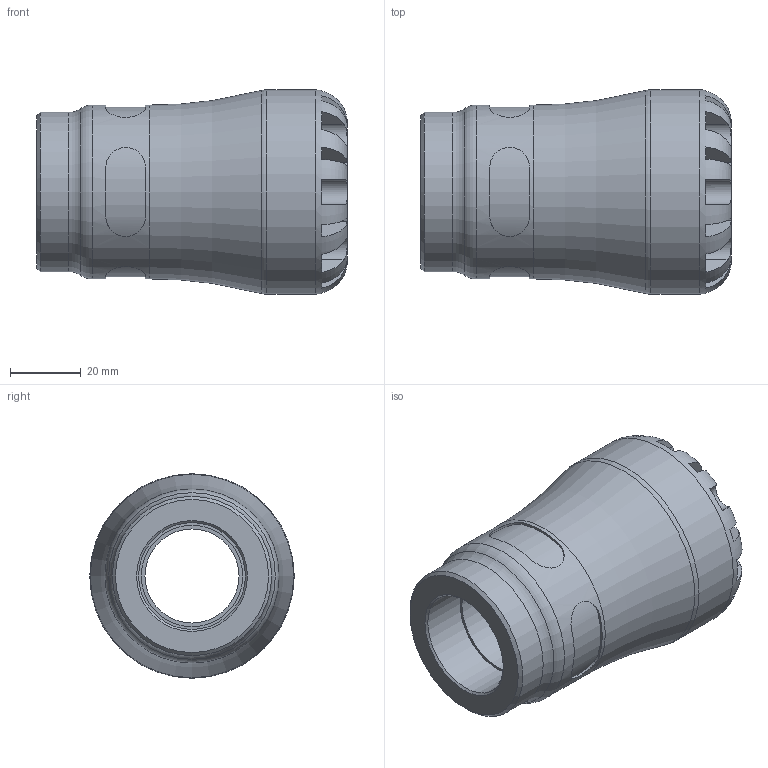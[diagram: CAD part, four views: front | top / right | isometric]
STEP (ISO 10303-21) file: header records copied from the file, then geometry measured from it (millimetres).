
FILE_DESCRIPTION(/* description */ ('PLASSON FEMALE INTEGRAL BRASS THREAD 32X1" G SERIES 1'),/* implementation_level */ '2;1');
FILE_NAME(/* name */ 'C:\Dropbox\KIMPROJECTS-Inventor\99-16-3568-Processing\1073G\1073G0032010.ipt.stp',/* time_stamp */ '2017-01-22T11:38:04+02:00',/* author */ ('KIM'),/* organization */ (''),/* preprocessor_version */ 'ST-DEVELOPER v15.6',/* originating_system */ 'Autodesk Inventor 2015',/* authorisation */ '');
FILE_SCHEMA (('AUTOMOTIVE_DESIGN { 1 0 10303 214 3 1 1 }'));
Length unit declared in the file: millimetre
Products named in the file (1): 1073G0032010
Bounding box: 88 x 58 x 58 mm (x, y, z)
Volume: 115891.6 mm3; surface area: 27016.5 mm2
Topology: 1 solids, 1 shells, 104 faces, 255 edges, 159 vertices
Faces by surface type: plane 61, cylinder 35, torus 5, cone 3
Full cylindrical faces by diameter (mm): 26.667 x1, 28.776 x1, 30.291 x1, 32 x1, 45.24 x1, 49.3 x1, 58 x1
Entity records: 3752 total; most frequent: CARTESIAN_POINT 1417, DIRECTION 472, ORIENTED_EDGE 470, EDGE_CURVE 235, AXIS2_PLACEMENT_3D 196, VERTEX_POINT 155, EDGE_LOOP 128, FACE_OUTER_BOUND 104
